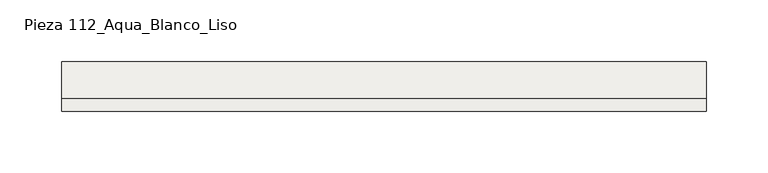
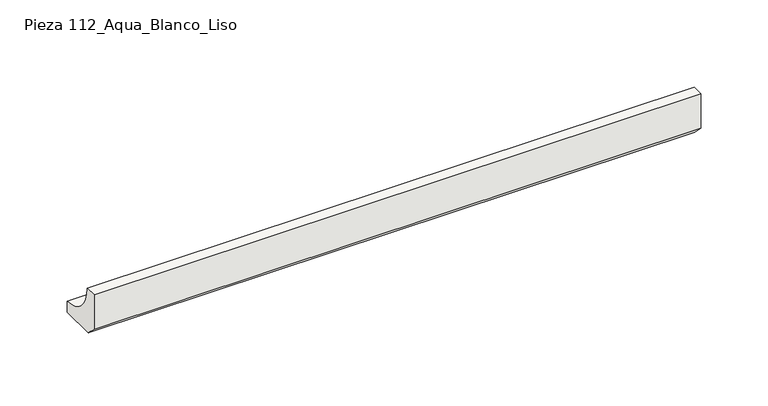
"""IFC4 building model written with IfcOpenShell, lengths in millimetres: slab geometry, ROSA GRES_112 : Pieza 112_Aqua_Blanco_Liso."""

from ifc_helpers import new_model, si_unit, point, frame, frame_2d, origin, place, context, project, spatial, polyline, circle_curve, trimmed, segment, composite_curve, outline, extrude, source, transform, mapped, element, save


def pieza_112_aqua_blanco_liso_e94905cb(model_context):
    return source(origin(), model_context, "Body", "SweptSolid", [
        extrude(outline(composite_curve([segment(polyline([(-9.9734114, 8.7114978), (-9.9734114, 40.0), (0.0, 40.0)]), True, "CONTINUOUS"), segment(trimmed(circle_curve(frame_2d((30.0221432, 39.9955547)), 30.0221435), [point((0.0, 40.0))], [point((30.0265886, 9.9734114))], True, "CARTESIAN"), True, "CONTINUOUS"), segment(polyline([(30.0265886, 9.9734114), (30.0265886, 0.0), (-1.2619137, 0.0), (-9.9734114, 8.7114978)]), True, "CONTINUOUS")], self_intersect=False)), frame((0.0, 0.0, 0.0), z_axis=(1.0, 0.0, 0.0), x_axis=(0.0, 1.0, 0.0)), (0.0, 0.0, 1.0), 521.7030768),
    ])


if __name__ == "__main__":
    model = new_model("IFC4")
    model_context = context("Model", 3, world=origin())
    ifc_project = project(units=[si_unit("LENGTHUNIT", "METRE", prefix="MILLI")], contexts=[model_context])
    site = spatial("IfcSite", under=ifc_project)
    building = spatial("IfcBuilding", under=site)
    placement = place(None, origin())
    pieza_112_aqua_blanco_liso_shape = pieza_112_aqua_blanco_liso_e94905cb(model_context)
    element("IfcSlab", 1, ObjectType="ROSA GRES_112 : Pieza 112_Aqua_Blanco_Liso", at=placement, inside=building, context=model_context, shape_type="MappedRepresentation", body=[
        mapped(pieza_112_aqua_blanco_liso_shape, transform((0.0, 0.0, 0.0), x_axis=(1.0, 0.0, 0.0), y_axis=(0.0, 1.0, 0.0), z_axis=(0.0, 0.0, 1.0))),
    ])
    save(model, "model.ifc")
